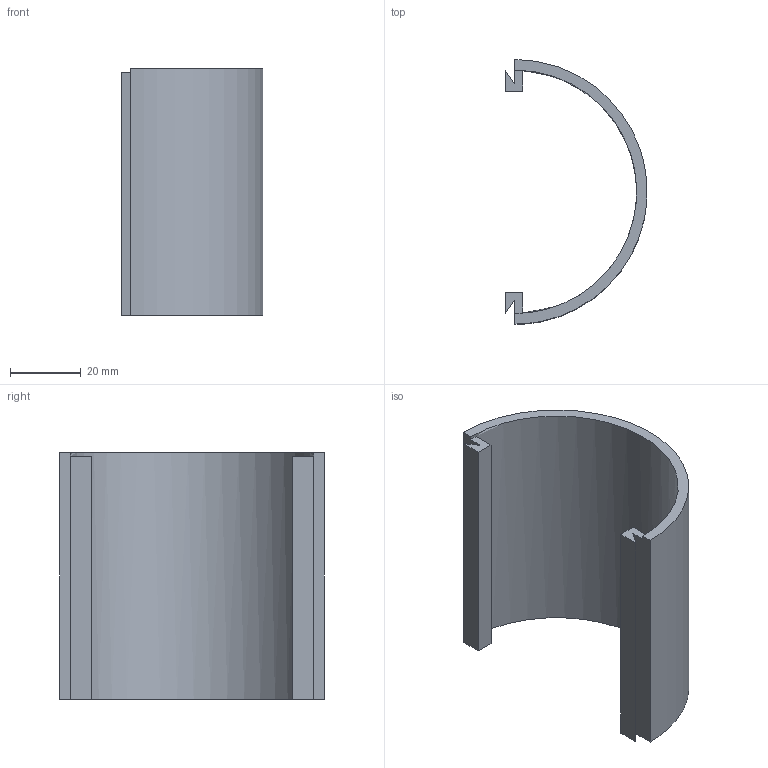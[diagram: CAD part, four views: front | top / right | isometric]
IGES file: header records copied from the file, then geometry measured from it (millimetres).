
Global section: file name: base_side v20; native system: unknown; preprocessor: unknown; author: unknown; organization: unknown; date: 20200329.203022; units: millimetre
Bounding box: 40.23 x 75 x 70 mm (x, y, z)
Volume: 27270.4 mm3; surface area: 20232.6 mm2
Topology: 1 solids, 1 shells, 18 faces, 48 edges, 32 vertices
Faces by surface type: bspline 18
